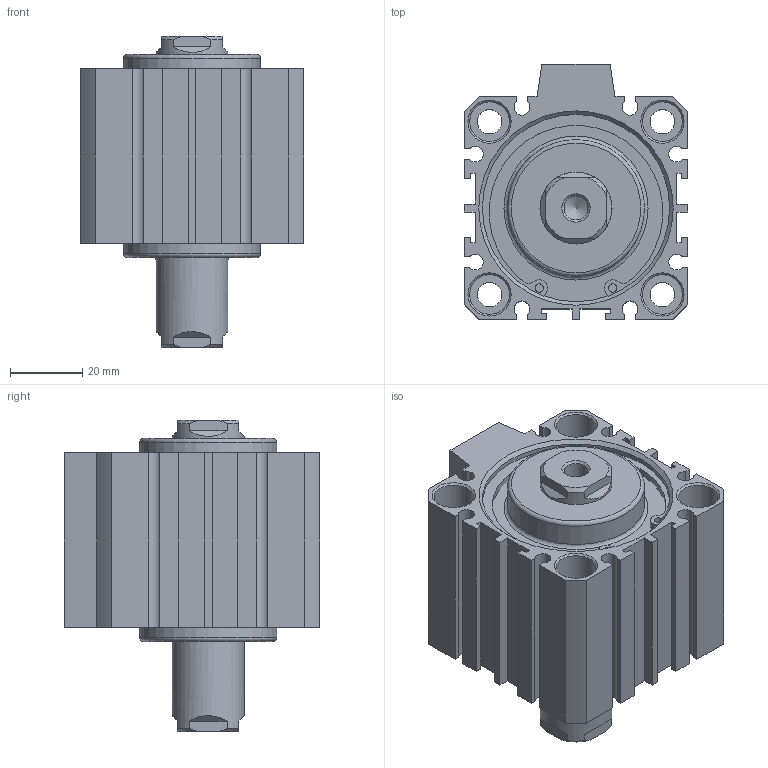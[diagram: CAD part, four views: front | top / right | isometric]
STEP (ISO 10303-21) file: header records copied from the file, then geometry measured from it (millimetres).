
FILE_DESCRIPTION((''),'2;1');
FILE_NAME('I:\3D電子目錄\氣缸\JDD\JDD\JDD50\JDD50x20.stp','2007-02-08T11:07:36',('662F206'),(''),'Autodesk Inventor 10','Autodesk Inventor 10','');
FILE_SCHEMA(('AUTOMOTIVE_DESIGN { 1 0 10303 214 1 1 1 1 }'));
Length unit declared in the file: millimetre
Products named in the file (3): JDD50; R 形環 52
Assembly tree (3 placements, depth 2):
  JDD50
    JDD50
    R 形環 52  x2
Bounding box: 62 x 71 x 86.6 mm (x, y, z)
Volume: 175256.7 mm3; surface area: 41988.5 mm2
Topology: 3 solids, 3 shells, 200 faces, 502 edges, 330 vertices
Faces by surface type: plane 116, cylinder 52, cone 24, bspline 6, torus 2
Full cylindrical faces by diameter (mm): 2.3 x4, 2.7 x2, 6.8 x4, 11 x8, 20 x2, 38 x2, 52 x4, 55 x2
Entity records: 5511 total; most frequent: CARTESIAN_POINT 1094, DIRECTION 908, ORIENTED_EDGE 824, EDGE_CURVE 412, AXIS2_PLACEMENT_3D 324, VERTEX_POINT 300, EDGE_LOOP 272, VECTOR 260
